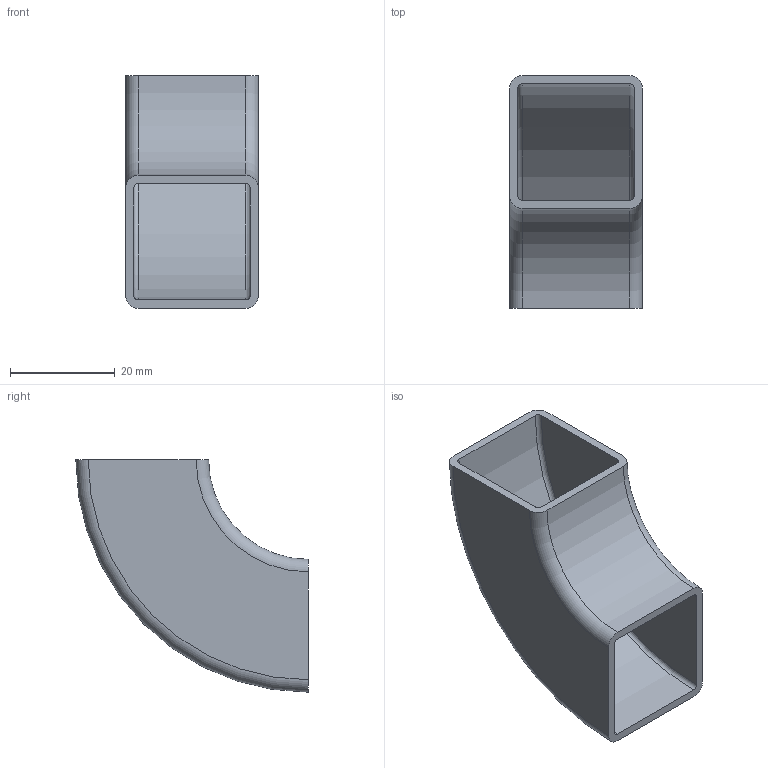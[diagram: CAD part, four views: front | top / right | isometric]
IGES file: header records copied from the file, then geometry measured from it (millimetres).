
Global section: file name: No Iges File Name specified; native system: Autodesk Inventor 2011; preprocessor: AutoDesk Inventor Iges Exporter R2011; author: bamfomg; date: 20110321.072913; units: inch
Bounding box: 25.4 x 44.45 x 44.45 mm (x, y, z)
Volume: 7325.5 mm3; surface area: 9522.7 mm2
Topology: 1 solids, 1 shells, 18 faces, 48 edges, 32 vertices
Faces by surface type: revolution 6, plane 6, torus 4, cylinder 2
